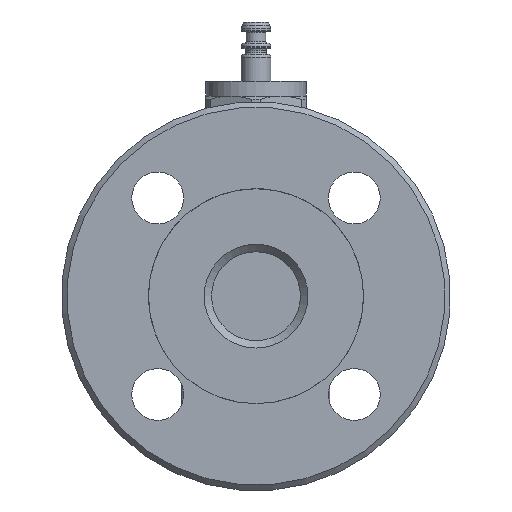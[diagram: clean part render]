
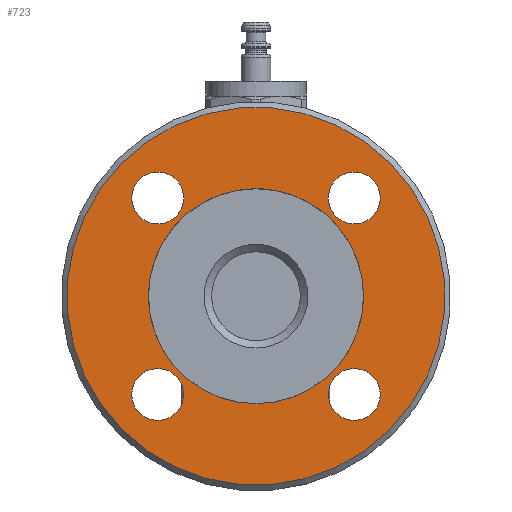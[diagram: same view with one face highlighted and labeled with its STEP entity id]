
A CAD part, left-side view. The second image highlights one B-rep face of the part: STEP entity #723.
In plain terms, the highlighted planar face has unit normal (-1, 0, 0).
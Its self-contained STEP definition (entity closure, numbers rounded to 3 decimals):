
#333=PLANE('',#3055);
#513=FACE_BOUND('',#1158,.T.);
#514=FACE_BOUND('',#1159,.T.);
#515=FACE_BOUND('',#1160,.T.);
#516=FACE_BOUND('',#1161,.T.);
#517=FACE_BOUND('',#1162,.T.);
#518=FACE_BOUND('',#1163,.T.);
#723=ADVANCED_FACE('',(#513,#514,#515,#516,#517,#518),#333,.T.);
#1158=EDGE_LOOP('',(#1951));
#1159=EDGE_LOOP('',(#1952));
#1160=EDGE_LOOP('',(#1953));
#1161=EDGE_LOOP('',(#1954));
#1162=EDGE_LOOP('',(#1955));
#1163=EDGE_LOOP('',(#1956));
#1365=CIRCLE('',#3049,51.);
#1366=CIRCLE('',#3050,29.);
#1367=CIRCLE('',#3051,7.);
#1368=CIRCLE('',#3052,7.);
#1369=CIRCLE('',#3053,7.);
#1370=CIRCLE('',#3054,7.);
#1951=ORIENTED_EDGE('',*,*,#2601,.T.);
#1952=ORIENTED_EDGE('',*,*,#2602,.F.);
#1953=ORIENTED_EDGE('',*,*,#2603,.T.);
#1954=ORIENTED_EDGE('',*,*,#2604,.T.);
#1955=ORIENTED_EDGE('',*,*,#2605,.T.);
#1956=ORIENTED_EDGE('',*,*,#2606,.T.);
#2279=VERTEX_POINT('',#10508);
#2280=VERTEX_POINT('',#10510);
#2281=VERTEX_POINT('',#10512);
#2282=VERTEX_POINT('',#10514);
#2283=VERTEX_POINT('',#10516);
#2284=VERTEX_POINT('',#10518);
#2601=EDGE_CURVE('',#2279,#2279,#1365,.T.);
#2602=EDGE_CURVE('',#2280,#2280,#1366,.T.);
#2603=EDGE_CURVE('',#2281,#2281,#1367,.T.);
#2604=EDGE_CURVE('',#2282,#2282,#1368,.T.);
#2605=EDGE_CURVE('',#2283,#2283,#1369,.T.);
#2606=EDGE_CURVE('',#2284,#2284,#1370,.T.);
#3049=AXIS2_PLACEMENT_3D('',#10507,#3735,#3736);
#3050=AXIS2_PLACEMENT_3D('',#10509,#3737,#3738);
#3051=AXIS2_PLACEMENT_3D('',#10511,#3739,#3740);
#3052=AXIS2_PLACEMENT_3D('',#10513,#3741,#3742);
#3053=AXIS2_PLACEMENT_3D('',#10515,#3743,#3744);
#3054=AXIS2_PLACEMENT_3D('',#10517,#3745,#3746);
#3055=AXIS2_PLACEMENT_3D('',#10519,#3747,#3748);
#3735=DIRECTION('',(-1.,0.,0.));
#3736=DIRECTION('',(0.,0.707,0.707));
#3737=DIRECTION('',(-1.,0.,0.));
#3738=DIRECTION('',(0.,0.707,0.707));
#3739=DIRECTION('',(1.,0.,0.));
#3740=DIRECTION('',(0.,-0.707,0.707));
#3741=DIRECTION('',(1.,0.,0.));
#3742=DIRECTION('',(0.,0.707,0.707));
#3743=DIRECTION('',(1.,0.,0.));
#3744=DIRECTION('',(0.,0.707,-0.707));
#3745=DIRECTION('',(1.,0.,0.));
#3746=DIRECTION('',(0.,-0.707,-0.707));
#3747=DIRECTION('',(-1.,0.,0.));
#3748=DIRECTION('',(0.,0.707,0.707));
#10507=CARTESIAN_POINT('',(27.,0.,100.));
#10508=CARTESIAN_POINT('',(27.,36.062,136.062));
#10509=CARTESIAN_POINT('',(27.,0.,100.));
#10510=CARTESIAN_POINT('',(27.,20.506,120.506));
#10511=CARTESIAN_POINT('',(27.,26.517,126.517));
#10512=CARTESIAN_POINT('',(27.,21.567,131.466));
#10513=CARTESIAN_POINT('',(27.,26.517,73.483));
#10514=CARTESIAN_POINT('',(27.,31.466,78.433));
#10515=CARTESIAN_POINT('',(27.,-26.517,73.483));
#10516=CARTESIAN_POINT('',(27.,-21.567,68.534));
#10517=CARTESIAN_POINT('',(27.,-26.517,126.517));
#10518=CARTESIAN_POINT('',(27.,-31.466,121.567));
#10519=CARTESIAN_POINT('',(27.,0.,100.));
